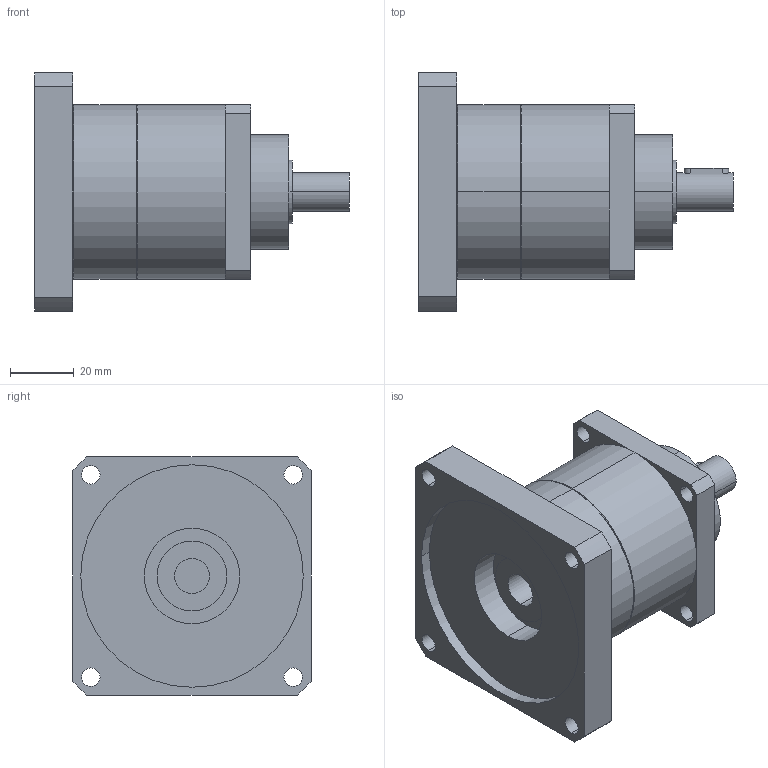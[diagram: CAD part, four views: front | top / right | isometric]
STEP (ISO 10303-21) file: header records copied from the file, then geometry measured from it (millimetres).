
FILE_DESCRIPTION(('CoCreate Modeling STEP Export'),'2;1');
FILE_NAME('GPT55_ig-3-4-5-7-10_12_B5A_11_P24.stp','2014-08-25T14:31:34',(''),(''),'CoCreate Modeling STEP processor for AP214 (Solid Model)','CoCreate Modeling 16.00C 25-Feb-2009 (C) Parametric Technology GmbH','');
FILE_SCHEMA(('AUTOMOTIVE_DESIGN { 1 0 10303 214 1 1 1 1 }'));
Length unit declared in the file: millimetre
Products named in the file (2): GPT55_ig-3-4-5-7-10_12_B5A_11_P24
Assembly tree (1 placements, depth 2):
  GPT55_ig-3-4-5-7-10_12_B5A_11_P24
    GPT55_ig-3-4-5-7-10_12_B5A_11_P24
Bounding box: 99 x 75 x 75 mm (x, y, z)
Volume: 197128.4 mm3; surface area: 31947.6 mm2
Topology: 1 solids, 1 shells, 77 faces, 197 edges, 132 vertices
Faces by surface type: cylinder 46, plane 27, cone 4
Entity records: 2480 total; most frequent: CARTESIAN_POINT 703, ORIENTED_EDGE 394, DIRECTION 318, EDGE_CURVE 197, VERTEX_POINT 132, AXIS2_PLACEMENT_3D 117, EDGE_LOOP 103, VECTOR 84
